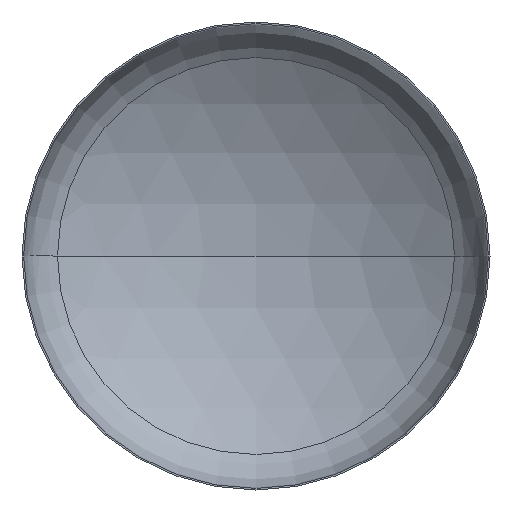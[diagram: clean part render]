
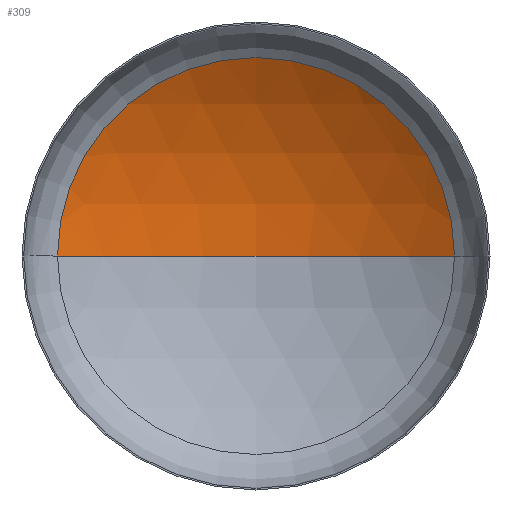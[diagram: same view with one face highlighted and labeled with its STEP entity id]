
A CAD part, front view. The second image highlights one B-rep face of the part: STEP entity #309.
In plain terms, the highlighted spherical face has radius 5600 mm.
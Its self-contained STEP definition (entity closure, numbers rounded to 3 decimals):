
#21 = VERTEX_POINT ( 'NONE', #62 ) ;
#22 = CARTESIAN_POINT ( 'NONE',  ( 0., -3757.699, 0. ) ) ;
#33 = DIRECTION ( 'NONE',  ( 1., 0., 0. ) ) ;
#37 = AXIS2_PLACEMENT_3D ( 'NONE', #88, #82, #147 ) ;
#57 = VERTEX_POINT ( 'NONE', #284 ) ;
#62 = CARTESIAN_POINT ( 'NONE',  ( 0., 1842.301, 0. ) ) ;
#70 = ORIENTED_EDGE ( 'NONE', *, *, #189, .T. ) ;
#82 = DIRECTION ( 'NONE',  ( 0., 0., -1. ) ) ;
#88 = CARTESIAN_POINT ( 'NONE',  ( 0., -3757.699, 0. ) ) ;
#113 = EDGE_LOOP ( 'NONE', ( #117, #128, #70 ) ) ;
#117 = ORIENTED_EDGE ( 'NONE', *, *, #194, .F. ) ;
#124 = AXIS2_PLACEMENT_3D ( 'NONE', #22, #163, #33 ) ;
#127 = AXIS2_PLACEMENT_3D ( 'NONE', #224, #298, #319 ) ;
#128 = ORIENTED_EDGE ( 'NONE', *, *, #190, .T. ) ;
#137 = AXIS2_PLACEMENT_3D ( 'NONE', #198, #202, #362 ) ;
#147 = DIRECTION ( 'NONE',  ( -1., 0., 0. ) ) ;
#163 = DIRECTION ( 'NONE',  ( 0., 0., 1. ) ) ;
#189 = EDGE_CURVE ( 'NONE', #379, #57, #403, .T. ) ;
#190 = EDGE_CURVE ( 'NONE', #21, #379, #243, .T. ) ;
#194 = EDGE_CURVE ( 'NONE', #21, #57, #350, .T. ) ;
#198 = CARTESIAN_POINT ( 'NONE',  ( 0., 990.778, 0. ) ) ;
#202 = DIRECTION ( 'NONE',  ( 0., -1., 0. ) ) ;
#211 = SPHERICAL_SURFACE ( 'NONE', #37, 5600. ) ;
#224 = CARTESIAN_POINT ( 'NONE',  ( 0., -3757.699, 0. ) ) ;
#243 = CIRCLE ( 'NONE', #127, 5600. ) ;
#284 = CARTESIAN_POINT ( 'NONE',  ( -2968.496, 990.778, 0. ) ) ;
#298 = DIRECTION ( 'NONE',  ( 0., 0., -1. ) ) ;
#309 = ADVANCED_FACE ( 'NONE', ( #324 ), #211, .F. ) ;
#319 = DIRECTION ( 'NONE',  ( -1., 0., 0. ) ) ;
#324 = FACE_OUTER_BOUND ( 'NONE', #113, .T. ) ;
#346 = CARTESIAN_POINT ( 'NONE',  ( 2968.496, 990.778, 0. ) ) ;
#350 = CIRCLE ( 'NONE', #124, 5600. ) ;
#362 = DIRECTION ( 'NONE',  ( 1., 0., 0. ) ) ;
#379 = VERTEX_POINT ( 'NONE', #346 ) ;
#403 = CIRCLE ( 'NONE', #137, 2968.496 ) ;
